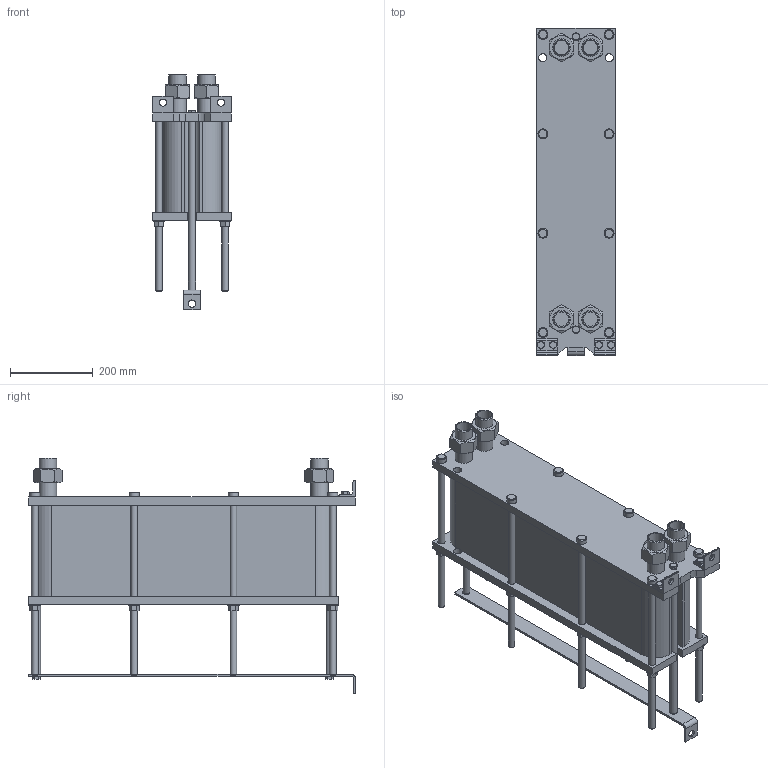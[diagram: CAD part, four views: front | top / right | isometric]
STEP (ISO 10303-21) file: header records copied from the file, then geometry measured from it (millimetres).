
FILE_DESCRIPTION(/* description */ (''),/* implementation_level */ '2;1');
FILE_NAME(/* name */ 'C:\Users\zhuro\Desktop\ENCO\TO\ЭН-008\ЭН-0,5-008-71-1.stp',/* time_stamp */ '2022-06-06T10:51:36+03:00',/* author */ ('zhuro'),/* organization */ (''),/* preprocessor_version */ 'ST-DEVELOPER v18.1',/* originating_system */ 'Autodesk Inventor 2022',/* authorisation */ '');
FILE_SCHEMA (('AUTOMOTIVE_DESIGN { 1 0 10303 214 3 1 1 }'));
Length unit declared in the file: millimetre
Products named in the file (1): ЭН-0,5-008-71-1
Bounding box: 190 x 790 x 569.8 mm (x, y, z)
Volume: 29284864.2 mm3; surface area: 1776218.7 mm2
Topology: 40 solids, 40 shells, 428 faces, 924 edges, 606 vertices
Faces by surface type: plane 273, cylinder 109, cone 40, torus 6
Full cylindrical faces by diameter (mm): 12 x6, 14 x2, 16 x20, 17 x8, 18 x19, 20 x5, 24 x8, 28 x8, 34.3 x8, 42.3 x8
Entity records: 15843 total; most frequent: CARTESIAN_POINT 5991, DIRECTION 1984, ORIENTED_EDGE 1848, EDGE_CURVE 924, AXIS2_PLACEMENT_3D 715, VERTEX_POINT 606, LINE 554, VECTOR 554
